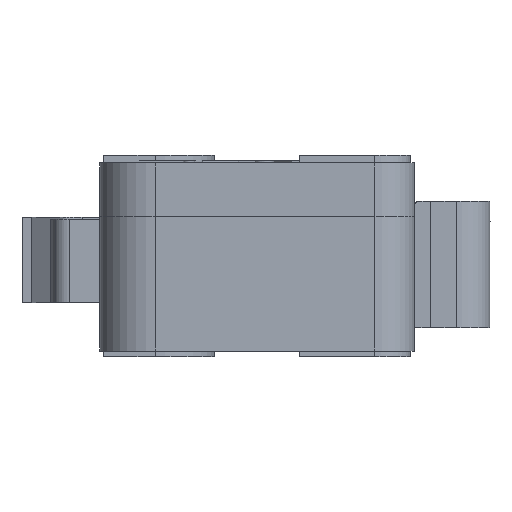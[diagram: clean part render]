
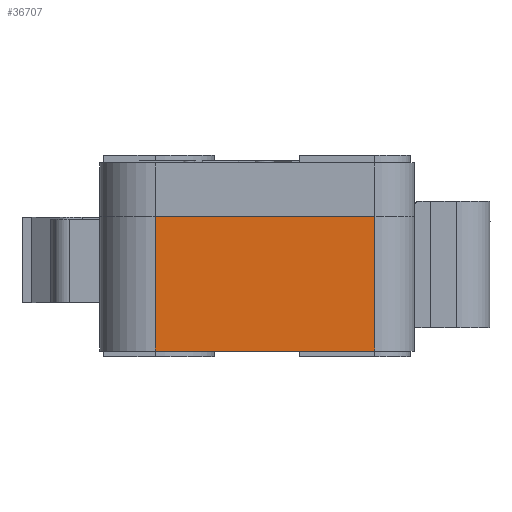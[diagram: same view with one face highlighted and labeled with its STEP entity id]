
A CAD part, left-side view. The second image highlights one B-rep face of the part: STEP entity #36707.
In plain terms, the highlighted planar face has unit normal (-1, 0, 0) as drawn and (1, 0, 0) by its records, which use the part's own axes.
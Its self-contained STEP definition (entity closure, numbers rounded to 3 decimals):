
#35287=DIRECTION('',(0.,0.,-1.));
#35288=VECTOR('',#35287,11.1);
#35289=CARTESIAN_POINT('',(13.9,6.8,5.15));
#35290=LINE('',#35289,#35288);
#35543=DIRECTION('',(0.,0.,1.));
#35544=VECTOR('',#35543,11.1);
#35545=CARTESIAN_POINT('',(13.9,0.,-5.95));
#35546=LINE('',#35545,#35544);
#35640=DIRECTION('',(0.,-1.,0.));
#35641=VECTOR('',#35640,6.8);
#35642=CARTESIAN_POINT('',(13.9,6.8,-5.95));
#35643=LINE('',#35642,#35641);
#35652=DIRECTION('',(0.,1.,0.));
#35653=VECTOR('',#35652,6.8);
#35654=CARTESIAN_POINT('',(13.9,0.,5.15));
#35655=LINE('',#35654,#35653);
#35982=CARTESIAN_POINT('',(13.9,0.,-5.95));
#35983=CARTESIAN_POINT('',(13.9,0.,5.15));
#35984=VERTEX_POINT('',#35982);
#35985=VERTEX_POINT('',#35983);
#36004=CARTESIAN_POINT('',(13.9,6.8,-5.95));
#36006=VERTEX_POINT('',#36004);
#36012=CARTESIAN_POINT('',(13.9,6.8,5.15));
#36013=VERTEX_POINT('',#36012);
#36695=CARTESIAN_POINT('',(13.9,0.,7.95));
#36696=DIRECTION('',(1.,0.,0.));
#36697=DIRECTION('',(0.,0.,-1.));
#36698=AXIS2_PLACEMENT_3D('',#36695,#36696,#36697);
#36699=PLANE('',#36698);
#36700=ORIENTED_EDGE('',*,*,#36490,.T.);
#36702=ORIENTED_EDGE('',*,*,#36701,.T.);
#36703=ORIENTED_EDGE('',*,*,#36224,.T.);
#36704=ORIENTED_EDGE('',*,*,#36687,.T.);
#36705=EDGE_LOOP('',(#36700,#36702,#36703,#36704));
#36706=FACE_OUTER_BOUND('',#36705,.F.);
#36707=ADVANCED_FACE('',(#36706),#36699,.T.);
#36224=EDGE_CURVE('',#36013,#36006,#35290,.T.);
#36490=EDGE_CURVE('',#35984,#35985,#35546,.T.);
#36687=EDGE_CURVE('',#36006,#35984,#35643,.T.);
#36701=EDGE_CURVE('',#35985,#36013,#35655,.T.);
